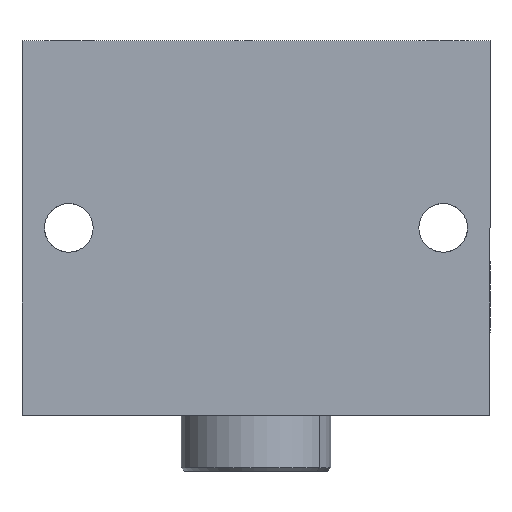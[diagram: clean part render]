
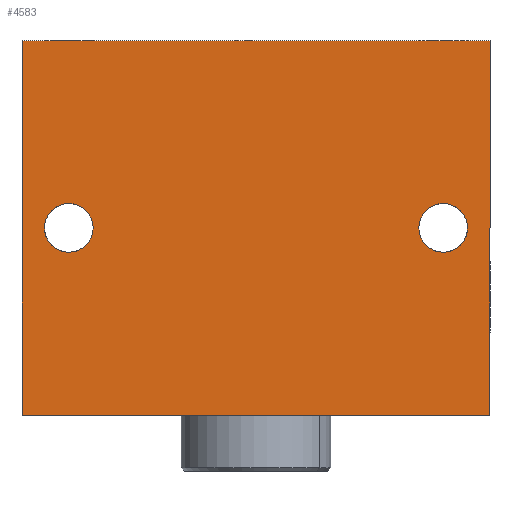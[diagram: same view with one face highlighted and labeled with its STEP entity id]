
A CAD part, front view. The second image highlights one B-rep face of the part: STEP entity #4583.
In plain terms, the highlighted planar face has unit normal (0, -1, 0).
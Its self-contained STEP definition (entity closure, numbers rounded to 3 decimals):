
#167 = CARTESIAN_POINT ( 'NONE',  ( 50., 0., 0. ) ) ;
#276 = VERTEX_POINT ( 'NONE', #17425 ) ;
#606 = DIRECTION ( 'NONE',  ( 0., 0., 1. ) ) ;
#784 = CARTESIAN_POINT ( 'NONE',  ( 62.5, 0., 50. ) ) ;
#794 = EDGE_LOOP ( 'NONE', ( #8847, #4870 ) ) ;
#1554 = DIRECTION ( 'NONE',  ( 0., 0., 1. ) ) ;
#1714 = AXIS2_PLACEMENT_3D ( 'NONE', #16641, #8637, #606 ) ;
#1953 = DIRECTION ( 'NONE',  ( 1., 0., 0. ) ) ;
#1954 = VERTEX_POINT ( 'NONE', #11123 ) ;
#2515 = CARTESIAN_POINT ( 'NONE',  ( -50., 0., 6.5 ) ) ;
#2648 = EDGE_LOOP ( 'NONE', ( #3686, #6269, #4498, #11310 ) ) ;
#2964 = EDGE_CURVE ( 'NONE', #15029, #10788, #15784, .T. ) ;
#3139 = DIRECTION ( 'NONE',  ( 0., 1., 0. ) ) ;
#3561 = FACE_OUTER_BOUND ( 'NONE', #2648, .T. ) ;
#3686 = ORIENTED_EDGE ( 'NONE', *, *, #7729, .F. ) ;
#3925 = DIRECTION ( 'NONE',  ( 0., 1., 0. ) ) ;
#4498 = ORIENTED_EDGE ( 'NONE', *, *, #15745, .F. ) ;
#4583 = ADVANCED_FACE ( 'NONE', ( #7648, #14328, #3561 ), #6032, .F. ) ;
#4771 = VERTEX_POINT ( 'NONE', #16075 ) ;
#4852 = VERTEX_POINT ( 'NONE', #16315 ) ;
#4870 = ORIENTED_EDGE ( 'NONE', *, *, #15061, .T. ) ;
#5122 = DIRECTION ( 'NONE',  ( -1., 0., 0. ) ) ;
#5602 = EDGE_CURVE ( 'NONE', #276, #7094, #13904, .T. ) ;
#6032 = PLANE ( 'NONE',  #12839 ) ;
#6269 = ORIENTED_EDGE ( 'NONE', *, *, #10821, .F. ) ;
#6320 = EDGE_CURVE ( 'NONE', #8898, #1954, #14299, .T. ) ;
#6505 = ORIENTED_EDGE ( 'NONE', *, *, #13695, .T. ) ;
#6861 = CARTESIAN_POINT ( 'NONE',  ( 50., 0., 6.5 ) ) ;
#7048 = LINE ( 'NONE', #8895, #17289 ) ;
#7094 = VERTEX_POINT ( 'NONE', #784 ) ;
#7425 = DIRECTION ( 'NONE',  ( 0., 0., 1. ) ) ;
#7648 = FACE_BOUND ( 'NONE', #794, .T. ) ;
#7729 = EDGE_CURVE ( 'NONE', #4852, #276, #7791, .T. ) ;
#7791 = LINE ( 'NONE', #11672, #14068 ) ;
#8186 = AXIS2_PLACEMENT_3D ( 'NONE', #12060, #3925, #13393 ) ;
#8205 = CIRCLE ( 'NONE', #10043, 6.5 ) ;
#8637 = DIRECTION ( 'NONE',  ( 0., 1., 0. ) ) ;
#8847 = ORIENTED_EDGE ( 'NONE', *, *, #6320, .T. ) ;
#8895 = CARTESIAN_POINT ( 'NONE',  ( -62.5, 0., -50. ) ) ;
#8898 = VERTEX_POINT ( 'NONE', #2515 ) ;
#9063 = VECTOR ( 'NONE', #1953, 1000. ) ;
#9586 = DIRECTION ( 'NONE',  ( 0., 1., 0. ) ) ;
#10043 = AXIS2_PLACEMENT_3D ( 'NONE', #11251, #3139, #12632 ) ;
#10165 = CARTESIAN_POINT ( 'NONE',  ( 62.5, 0., -50. ) ) ;
#10788 = VERTEX_POINT ( 'NONE', #15491 ) ;
#10821 = EDGE_CURVE ( 'NONE', #4771, #4852, #7048, .T. ) ;
#11072 = ORIENTED_EDGE ( 'NONE', *, *, #2964, .T. ) ;
#11123 = CARTESIAN_POINT ( 'NONE',  ( -50., 0., -6.5 ) ) ;
#11251 = CARTESIAN_POINT ( 'NONE',  ( -50., 0., 0. ) ) ;
#11310 = ORIENTED_EDGE ( 'NONE', *, *, #5602, .F. ) ;
#11533 = DIRECTION ( 'NONE',  ( 0., 0., -1. ) ) ;
#11672 = CARTESIAN_POINT ( 'NONE',  ( -62.5, 0., -50. ) ) ;
#12060 = CARTESIAN_POINT ( 'NONE',  ( -50., 0., 0. ) ) ;
#12632 = DIRECTION ( 'NONE',  ( 0., 0., 1. ) ) ;
#12782 = CARTESIAN_POINT ( 'NONE',  ( 0., 0., 0. ) ) ;
#12839 = AXIS2_PLACEMENT_3D ( 'NONE', #12782, #15379, #7425 ) ;
#13028 = DIRECTION ( 'NONE',  ( 0., 0., 1. ) ) ;
#13075 = VECTOR ( 'NONE', #11533, 1000. ) ;
#13305 = CIRCLE ( 'NONE', #1714, 6.5 ) ;
#13393 = DIRECTION ( 'NONE',  ( 0., 0., 1. ) ) ;
#13695 = EDGE_CURVE ( 'NONE', #10788, #15029, #13305, .T. ) ;
#13819 = EDGE_LOOP ( 'NONE', ( #11072, #6505 ) ) ;
#13904 = LINE ( 'NONE', #15285, #9063 ) ;
#14068 = VECTOR ( 'NONE', #13028, 1000. ) ;
#14299 = CIRCLE ( 'NONE', #8186, 6.5 ) ;
#14328 = FACE_BOUND ( 'NONE', #13819, .T. ) ;
#14661 = AXIS2_PLACEMENT_3D ( 'NONE', #167, #9586, #1554 ) ;
#15029 = VERTEX_POINT ( 'NONE', #6861 ) ;
#15061 = EDGE_CURVE ( 'NONE', #1954, #8898, #8205, .T. ) ;
#15285 = CARTESIAN_POINT ( 'NONE',  ( -62.5, 0., 50. ) ) ;
#15379 = DIRECTION ( 'NONE',  ( 0., 1., 0. ) ) ;
#15491 = CARTESIAN_POINT ( 'NONE',  ( 50., 0., -6.5 ) ) ;
#15745 = EDGE_CURVE ( 'NONE', #7094, #4771, #16547, .T. ) ;
#15784 = CIRCLE ( 'NONE', #14661, 6.5 ) ;
#16075 = CARTESIAN_POINT ( 'NONE',  ( 62.5, 0., -50. ) ) ;
#16315 = CARTESIAN_POINT ( 'NONE',  ( -62.5, 0., -50. ) ) ;
#16547 = LINE ( 'NONE', #10165, #13075 ) ;
#16641 = CARTESIAN_POINT ( 'NONE',  ( 50., 0., 0. ) ) ;
#17289 = VECTOR ( 'NONE', #5122, 1000. ) ;
#17425 = CARTESIAN_POINT ( 'NONE',  ( -62.5, 0., 50. ) ) ;
